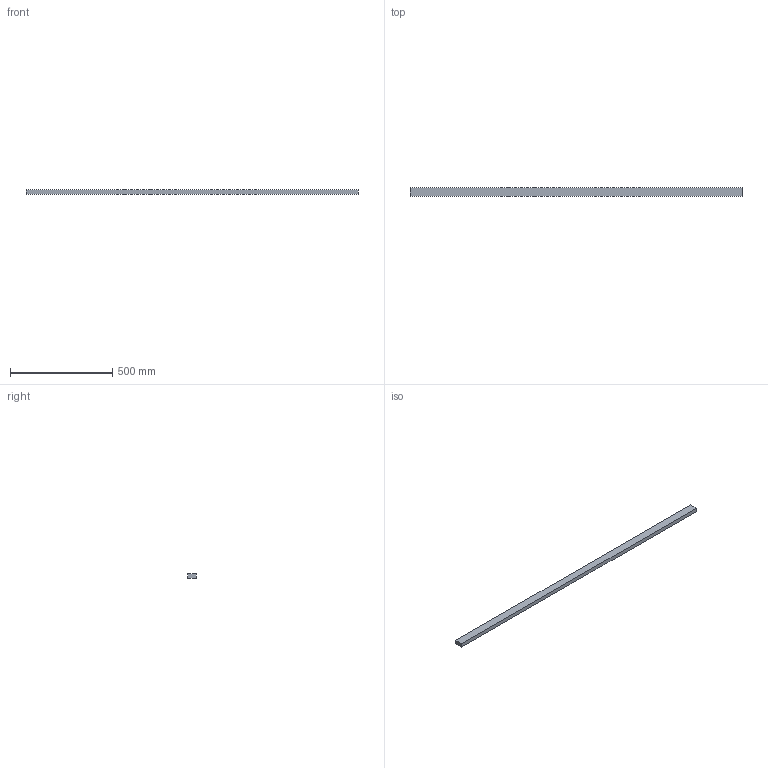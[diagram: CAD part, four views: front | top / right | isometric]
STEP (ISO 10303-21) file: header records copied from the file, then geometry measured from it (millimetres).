
FILE_DESCRIPTION(/* description */ (''),/* implementation_level */ '2;1');
FILE_NAME(/* name */ '3.frame-top#3.5#HFS5-2040-1620',/* time_stamp */ '2014-12-01T20:12:16+01:00',/* author */ (''),/* organization */ (''),/* preprocessor_version */ 'ST-DEVELOPER v14',/* originating_system */ '',/* authorisation */ '');
FILE_SCHEMA (('AUTOMOTIVE_DESIGN'));
Length unit declared in the file: millimetre
Products named in the file (1): Document
Bounding box: 1620 x 40 x 20 mm (x, y, z)
Volume: 1296000 mm3; surface area: 196000 mm2
Topology: 1 solids, 1 shells, 6 faces, 12 edges, 8 vertices
Faces by surface type: plane 6
Entity records: 298 total; most frequent: CARTESIAN_POINT 88, B_SPLINE_CURVE_WITH_KNOTS 36, ORIENTED_EDGE 24, PCURVE 24, DEFINITIONAL_REPRESENTATION 24, SURFACE_CURVE 12, EDGE_CURVE 12, DIRECTION 10
